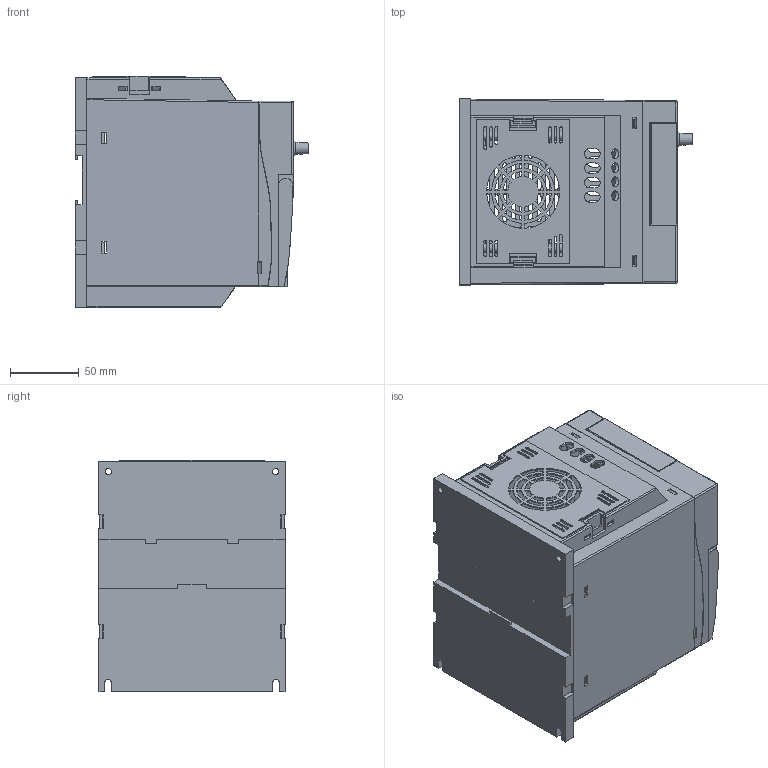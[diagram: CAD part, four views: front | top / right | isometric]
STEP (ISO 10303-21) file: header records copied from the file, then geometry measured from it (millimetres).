
FILE_DESCRIPTION(('STEP AP214'), '1');
FILE_NAME('Ïðåîáðàçîâàòåëü ÷àñòîòû _ MCI-G2.2-2B', '', ('UNSPECIFIED'), ('UNSPECIFIED'), 'C3D Converter', 'C3D Toolkit', '');
FILE_SCHEMA(('AUTOMOTIVE_DESIGN { 1 0 10303 214 3 1 1}'));
Length unit declared in the file: millimetre
Products named in the file (7): MCI-G2.2-2B; MCI-KP-S
Assembly tree (6 placements, depth 2):
  MCI-G2.2-2B
    MCI-G2.2-2B
    MCI-G2.2-2B
    MCI-G2.2-2B
    MCI-G2.2-2B
    MCI-G2.2-2B
    MCI-KP-S
Bounding box: 169.85 x 135.3 x 167.9 mm (x, y, z)
Volume: 347943 mm3; surface area: 329937.1 mm2
Topology: 6 solids, 7 shells, 1295 faces, 3636 edges, 2395 vertices
Faces by surface type: plane 973, cylinder 274, cone 22, sphere 10, torus 9, extrusion 6, bspline 1
Full cylindrical faces by diameter (mm): 1 x2, 2 x10, 4 x6, 4.2 x1, 4.5 x2, 5.3 x4, 6.3 x2, 7.1 x9
Entity records: 45746 total; most frequent: CARTESIAN_POINT 8601, ORIENTED_EDGE 7159, DIRECTION 6610, EDGE_CURVE 3580, VECTOR 2872, LINE 2866, VERTEX_POINT 2396, AXIS2_PLACEMENT_3D 1869
